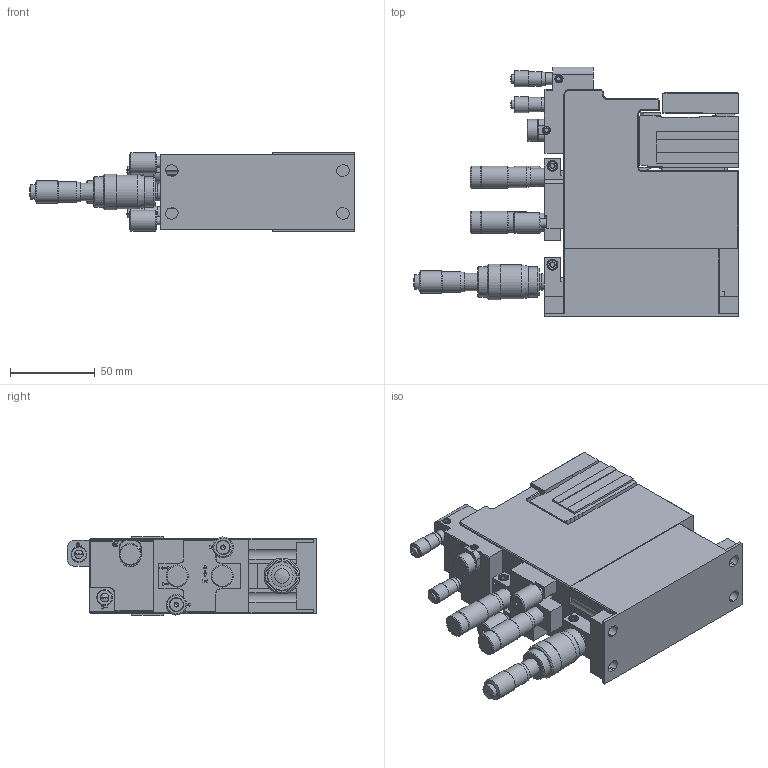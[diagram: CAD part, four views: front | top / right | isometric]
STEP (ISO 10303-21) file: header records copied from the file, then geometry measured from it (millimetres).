
FILE_DESCRIPTION((''),'1');
FILE_NAME('P1-L-H-I','2021-03-26T13:47:58',('JD'),('Luminos'),'Spatial Interop R20 SP1','Kubotek KeyCreator V9.0.3 (16864)',' ');
FILE_SCHEMA(('automotive_design'));
Length unit declared in the file: inch
Products named in the file (2): 1; 2
Bounding box: 191.28 x 147.07 x 46.99 mm (x, y, z)
Volume: 656442.1 mm3; surface area: 91434.4 mm2
Topology: 2 solids, 3 shells, 935 faces, 2180 edges, 1357 vertices
Faces by surface type: plane 558, cone 192, cylinder 180, sphere 5
Full cylindrical faces by diameter (mm): 2.05 x25, 4.039 x3, 4.648 x8, 4.762 x6, 4.775 x2, 4.826 x2, 5 x3, 5.08 x2, 5.74 x4, 6.35 x3, 7.01 x2, 7.144 x1, 8.509 x2, 8.7 x1, 9.3 x1, 9.322 x2, 9.5 x3, 9.525 x1, 10.49 x2, 10.5 x1, 12.1 x1, 12.116 x2, 12.192 x2, 12.7 x1, 13 x1, 13.081 x4, 17.7 x2, 20 x1, 21 x1
Entity records: 46080 total; most frequent: CARTESIAN_POINT 4657, DIRECTION 4290, ORIENTED_EDGE 3896, PRESENTATION_STYLE_ASSIGNMENT 3822, COLOUR_RGB 3822, STYLED_ITEM 2885, CURVE_STYLE 2885, DRAUGHTING_PRE_DEFINED_CURVE_FONT 2885
